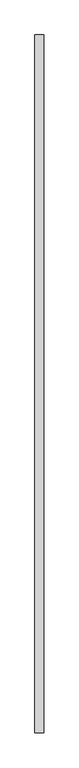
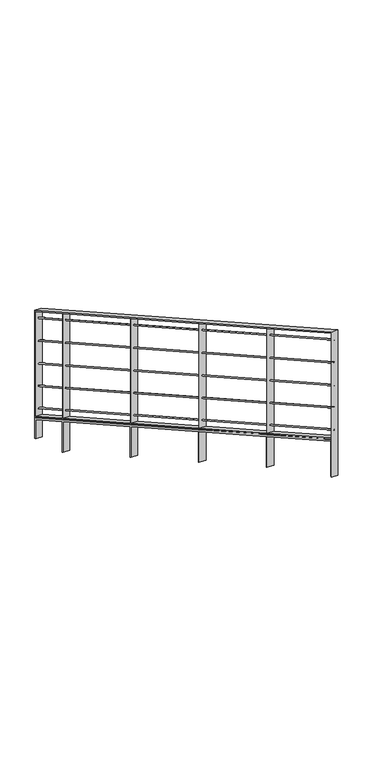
"""IFC4 building model written with IfcOpenShell, lengths in millimetres: railing geometry, Garde-corps 5 : Garde-corps 5."""

from ifc_helpers import new_model, si_unit, point, frame, frame_2d, origin, place, context, project, spatial, polyline, circle_curve, trimmed, segment, composite_curve, outline, extrude, source, transform, mapped, element, save


def railing_6c104848(model_context):
    return source(origin(), model_context, "Body", "SweptSolid", [
        extrude(outline(composite_curve([segment(trimmed(circle_curve(frame_2d((-25.0, -67.3000001)), 5.0), [point((-25.0, -72.3))], [point((-25.0, -62.3))], False, "CARTESIAN"), True, "CONTINUOUS"), segment(trimmed(circle_curve(frame_2d((-25.0, -67.3000001)), 5.0), [point((-25.0, -62.3))], [point((-25.0, -72.3))], False, "CARTESIAN"), True, "CONTINUOUS")], self_intersect=False)), frame((10408.2466393, 5291.1766434, 3254.2266045), z_axis=(0.0, -0.8717971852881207, 0.48986698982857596), x_axis=(1.0, 0.0, 0.0)), (0.0, 0.0, 1.0), 4487.6438409),
        extrude(outline(composite_curve([segment(trimmed(circle_curve(frame_2d((-25.0, -67.3000001)), 5.0), [point((-25.0, -72.3))], [point((-25.0, -62.3))], False, "CARTESIAN"), True, "CONTINUOUS"), segment(trimmed(circle_curve(frame_2d((-25.0, -67.3000001)), 5.0), [point((-25.0, -62.3))], [point((-25.0, -72.3))], False, "CARTESIAN"), True, "CONTINUOUS")], self_intersect=False)), frame((10408.2466393, 5291.1766434, 3434.2266045), z_axis=(0.0, -0.8717971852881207, 0.48986698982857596), x_axis=(1.0, 0.0, 0.0)), (0.0, 0.0, 1.0), 4487.6438409),
        extrude(outline(composite_curve([segment(trimmed(circle_curve(frame_2d((-25.0, -67.3000001)), 5.0), [point((-25.0, -72.3))], [point((-25.0, -62.3000001))], False, "CARTESIAN"), True, "CONTINUOUS"), segment(trimmed(circle_curve(frame_2d((-25.0, -67.3000001)), 5.0), [point((-25.0, -62.3000001))], [point((-25.0, -72.3))], False, "CARTESIAN"), True, "CONTINUOUS")], self_intersect=False)), frame((10408.2466393, 5291.1766434, 3613.4448512), z_axis=(0.0, -0.8717971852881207, 0.48986698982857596), x_axis=(1.0, 0.0, 0.0)), (0.0, 0.0, 1.0), 4487.6438409),
        extrude(outline(composite_curve([segment(trimmed(circle_curve(frame_2d((-25.0, -67.3000001)), 5.0), [point((-25.0, -72.3))], [point((-25.0, -62.3))], False, "CARTESIAN"), True, "CONTINUOUS"), segment(trimmed(circle_curve(frame_2d((-25.0, -67.3000001)), 5.0), [point((-25.0, -62.3))], [point((-25.0, -72.3))], False, "CARTESIAN"), True, "CONTINUOUS")], self_intersect=False)), frame((10408.2466393, 5291.1766434, 3797.5266045), z_axis=(0.0, -0.8717971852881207, 0.48986698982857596), x_axis=(1.0, 0.0, 0.0)), (0.0, 0.0, 1.0), 4487.6438409),
        extrude(outline(composite_curve([segment(trimmed(circle_curve(frame_2d((-25.0, -67.3000001)), 5.0), [point((-25.0, -72.3))], [point((-25.0, -62.3))], False, "CARTESIAN"), True, "CONTINUOUS"), segment(trimmed(circle_curve(frame_2d((-25.0, -67.3000001)), 5.0), [point((-25.0, -62.3))], [point((-25.0, -72.3))], False, "CARTESIAN"), True, "CONTINUOUS")], self_intersect=False)), frame((10408.2466393, 5291.1766434, 3980.8266045), z_axis=(0.0, -0.8717971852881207, 0.48986698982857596), x_axis=(1.0, 0.0, 0.0)), (0.0, 0.0, 1.0), 4487.6438409),
        extrude(outline(polyline([(1342.0685723, 6191.9047619), (5262.5675809, 3988.9576999), (5262.5675809, 2960.0), (5252.5675809, 2960.0), (5252.5675809, 3113.8837936), (4901.5832812, 3311.1035429), (4901.5832812, 3063.3394945), (4891.5832812, 3068.9585421), (4891.5832812, 3316.7225905), (4003.2832812, 3815.8625905), (4003.2832812, 3568.0985421), (3993.2832812, 3573.7175898), (3993.2832812, 3821.4816381), (3099.9832812, 4323.431162), (3099.9832812, 4075.6671136), (3089.9832812, 4081.2861612), (3089.9832812, 4329.0502096), (2202.0685723, 4827.9737127), (2202.0685723, 4580.2096643), (2192.0685723, 4585.8287119), (2192.0685723, 4833.5927603), (1352.0685723, 5305.5927603), (1352.0685723, 5022.0), (1342.0685723, 5022.0), (1342.0685723, 6191.9047619)]), holes=[polyline([(2192.0685723, 4861.122099), (2192.0685723, 5702.8151565), (1352.0685723, 6174.8151565), (1352.0685723, 5333.122099), (2192.0685723, 4861.122099)]), polyline([(3089.9832812, 4356.5795483), (3089.9832812, 5198.2726057), (2202.0685723, 5697.1961089), (2202.0685723, 4855.5030514), (3089.9832812, 4356.5795483)]), polyline([(3993.2832812, 3849.0109769), (3993.2832812, 4690.7040343), (3099.9832812, 5192.6535581), (3099.9832812, 4350.9605007), (3993.2832812, 3849.0109769)]), polyline([(4891.5832812, 3344.2519292), (4891.5832812, 4185.9449867), (4003.2832812, 4685.0849867), (4003.2832812, 3843.3919292), (4891.5832812, 3344.2519292)]), polyline([(4901.5832812, 3338.6328816), (5252.5675809, 3141.4131323), (5252.5675809, 3983.1061898), (4901.5832812, 4180.3259391), (4901.5832812, 3338.6328816)]), polyline([(4901.5832812, 3329.4564354), (4901.5832812, 3328.3093796), (5252.5675809, 3131.0896303), (5252.5675809, 3132.2366861), (4901.5832812, 3329.4564354)]), polyline([(4891.5832812, 3333.9284272), (4891.5832812, 3335.075483), (4003.2832812, 3834.215483), (4003.2832812, 3833.0684272), (4891.5832812, 3333.9284272)]), polyline([(3993.2832812, 3838.6874748), (3993.2832812, 3839.8345306), (3099.9832812, 4341.7840544), (3099.9832812, 4340.6369986), (3993.2832812, 3838.6874748)]), polyline([(2202.0685723, 4845.1795494), (3089.9832812, 4346.2560463), (3089.9832812, 4347.403102), (2202.0685723, 4846.3266052), (2202.0685723, 4845.1795494)]), polyline([(1352.0685723, 5323.9456528), (1352.0685723, 5322.798597), (2192.0685723, 4850.798597), (2192.0685723, 4851.9456528), (1352.0685723, 5323.9456528)])]), frame((10358.2466393, 0.0, 0.0), z_axis=(1.0, 0.0, 0.0), x_axis=(0.0, 1.0, 0.0)), (0.0, 0.0, 1.0), 50.0),
    ])


if __name__ == "__main__":
    model = new_model("IFC4")
    model_context = context("Model", 3, world=origin())
    ifc_project = project(units=[si_unit("LENGTHUNIT", "METRE", prefix="MILLI")], contexts=[model_context])
    site = spatial("IfcSite", under=ifc_project)
    building = spatial("IfcBuilding", under=site)
    placement = place(None, origin())
    railing_shape = railing_6c104848(model_context)
    element("IfcRailing", 1, ObjectType="Garde-corps 5 : Garde-corps 5", at=placement, inside=building, context=model_context, shape_type="MappedRepresentation", body=[
        mapped(railing_shape, transform((0.0, 0.0, 0.0), x_axis=(1.0, 0.0, 0.0), y_axis=(0.0, 1.0, 0.0), z_axis=(0.0, 0.0, 1.0))),
    ])
    save(model, "model.ifc")
